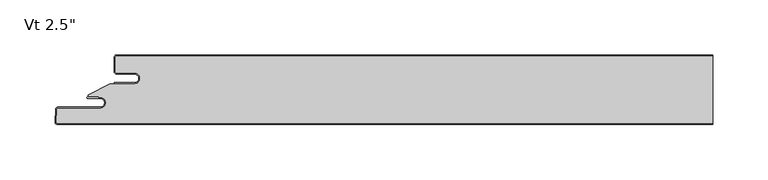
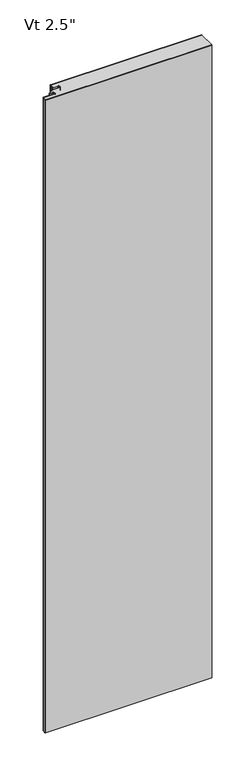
"""IFC4 building model written with IfcOpenShell, lengths in millimetres: plate geometry."""

import ifcopenshell
import ifcopenshell.guid

model = None  # the IFC model being written
_history = None  # IfcOwnerHistory: only IFC2X3 demands one
_inside = {}  # id of a spatial element -> (the spatial element, [elements in it])
_under = {}  # id of a project, library or spatial element -> (it, [spatial elements below it])
_declared = {}  # id of a project -> (the project, [libraries it declares])
_typed = {}  # id of a type object -> (the type object, [elements of that type])
_made_of = {}  # id of a material, layer set ... -> (it, [elements and type objects made of it])


def new_model(schema):
    """Start an empty IFC model of exactly this schema.

    Asked for "IFC4X3", IfcOpenShell would pick the latest addendum, in which some entities
    have other attributes; the version numbers below select the first issue.
    IFC2X3 requires an IfcOwnerHistory on every rooted entity: one is made here for all.
    """
    global model, _history
    if schema == "IFC4X3":
        model = ifcopenshell.file(schema_version=(4, 3, 0, 0))
    else:
        model = ifcopenshell.file(schema=schema)
    _inside.clear()
    _under.clear()
    _declared.clear()
    _typed.clear()
    _made_of.clear()
    _history = None
    if model.schema == "IFC2X3":
        org = make("IfcOrganization", Name="unknown")
        user = make(
            "IfcPersonAndOrganization",
            ThePerson=make("IfcPerson", FamilyName="unknown"),
            TheOrganization=org,
        )
        app = make(
            "IfcApplication",
            ApplicationDeveloper=org,
            Version="unknown",
            ApplicationFullName="unknown",
            ApplicationIdentifier="unknown",
        )
        _history = make(
            "IfcOwnerHistory",
            OwningUser=user,
            OwningApplication=app,
            ChangeAction="ADDED",
            CreationDate=0,
        )
    return model


def make(cls, **values):
    """One entity of the class cls with the attributes given. An attribute that is None is left unset."""
    return model.create_entity(
        cls, **{name: value for name, value in values.items() if value is not None}
    )


def rooted(cls, **values):
    """An entity with a GlobalId (a new one), such as an element, a storey or a relation."""
    return make(cls, GlobalId=ifcopenshell.guid.new(), OwnerHistory=_history, **values)


def si_unit(unit_type, name, prefix=None):
    """IfcSIUnit, for example si_unit("LENGTHUNIT", "METRE", prefix="MILLI")."""
    return make("IfcSIUnit", UnitType=unit_type, Prefix=prefix, Name=name)


def assignment(units):
    """IfcUnitAssignment: the units of a project."""
    return None if units is None else make("IfcUnitAssignment", Units=units)


def point(xyz):
    """IfcCartesianPoint."""
    return None if xyz is None else make("IfcCartesianPoint", Coordinates=xyz)


def direction(xyz):
    """IfcDirection."""
    return None if xyz is None else make("IfcDirection", DirectionRatios=xyz)


def frame(location, z_axis=None, x_axis=None):
    """IfcAxis2Placement3D, a coordinate frame: its origin and axes. An axis left out is left unset."""
    return make(
        "IfcAxis2Placement3D",
        Location=point(location),
        Axis=direction(z_axis),
        RefDirection=direction(x_axis),
    )


def frame_2d(location, x_axis=None):
    """IfcAxis2Placement2D, a coordinate frame in the plane: its origin and x axis."""
    return make(
        "IfcAxis2Placement2D", Location=point(location), RefDirection=direction(x_axis)
    )


def origin():
    """The frame at (0, 0, 0) with its axes left unset."""
    return frame((0.0, 0.0, 0.0))


def origin_with_axes():
    """The frame at (0, 0, 0) with the z axis (0, 0, 1) and the x axis (1, 0, 0) written out."""
    return frame((0.0, 0.0, 0.0), z_axis=(0.0, 0.0, 1.0), x_axis=(1.0, 0.0, 0.0))


def place(relative_to, where):
    """IfcLocalPlacement: puts the frame where relative to a parent placement (None: the world)."""
    return make(
        "IfcLocalPlacement", PlacementRelTo=relative_to, RelativePlacement=where
    )


def context(
    kind, dimensions, precision=None, world=None, true_north=None, identifier=None
):
    """IfcGeometricRepresentationContext, for example the 3D "Model" context."""
    return make(
        "IfcGeometricRepresentationContext",
        ContextIdentifier=identifier,
        ContextType=kind,
        CoordinateSpaceDimension=dimensions,
        Precision=precision,
        WorldCoordinateSystem=world,
        TrueNorth=true_north,
    )


def project(units=None, contexts=None):
    """IfcProject with its units and contexts."""
    return rooted(
        "IfcProject",
        Name="project",
        RepresentationContexts=contexts,
        UnitsInContext=assignment(units),
    )


def spatial(cls, under=None, at=None, **own):
    """A site, building, storey or space (cls), placed at a placement, below another one or the project."""
    s = rooted(cls, ObjectPlacement=at, **own)
    if under is not None:
        _under.setdefault(under.id(), (under, []))[1].append(s)
    return s


def polyline(points):
    """IfcPolyline through the points."""
    return make("IfcPolyline", Points=[point(p) for p in points])


def circle_curve(where, radius):
    """IfcCircle in the frame where."""
    return make("IfcCircle", Position=where, Radius=radius)


def trimmed(basis, trim1, trim2, sense, master):
    """IfcTrimmedCurve: the piece of a basis curve between two trims."""
    return make(
        "IfcTrimmedCurve",
        BasisCurve=basis,
        Trim1=trim1,
        Trim2=trim2,
        SenseAgreement=sense,
        MasterRepresentation=master,
    )


def segment(curve, same_sense, transition):
    """IfcCompositeCurveSegment."""
    return make(
        "IfcCompositeCurveSegment",
        Transition=transition,
        SameSense=same_sense,
        ParentCurve=curve,
    )


def composite_curve(segments, self_intersect=None):
    """IfcCompositeCurve: segments joined end to end."""
    return make("IfcCompositeCurve", Segments=segments, SelfIntersect=self_intersect)


def outline(outer, holes=None, kind="AREA"):
    """IfcArbitraryClosedProfileDef: a profile drawn as a closed curve; with holes, ...WithVoids."""
    if holes is None:
        return make("IfcArbitraryClosedProfileDef", ProfileType=kind, OuterCurve=outer)
    return make(
        "IfcArbitraryProfileDefWithVoids",
        ProfileType=kind,
        OuterCurve=outer,
        InnerCurves=holes,
    )


def extrude(swept, where, along, depth):
    """IfcExtrudedAreaSolid: the profile swept, set in the frame where, extruded along a direction by depth."""
    return make(
        "IfcExtrudedAreaSolid",
        SweptArea=swept,
        Position=where,
        ExtrudedDirection=direction(along),
        Depth=depth,
    )


def shape(context_of_items, identifier, shape_type, items):
    """IfcShapeRepresentation: the items that make up one representation, for example the "Body"."""
    return make(
        "IfcShapeRepresentation",
        ContextOfItems=context_of_items,
        RepresentationIdentifier=identifier,
        RepresentationType=shape_type,
        Items=items,
    )


def source(mapping_origin, context_of_items, identifier, shape_type, items):
    """IfcRepresentationMap: a shape defined once, which mapped items show again and again."""
    return make(
        "IfcRepresentationMap",
        MappingOrigin=mapping_origin,
        MappedRepresentation=shape(context_of_items, identifier, shape_type, items),
    )


def transform(
    local_origin,
    x_axis=None,
    y_axis=None,
    z_axis=None,
    scale=None,
    scale2=None,
    scale3=None,
    uniform=True,
):
    """IfcCartesianTransformationOperator3D, or its non-uniform kind. x_axis, y_axis, z_axis: its Axis1, 2, 3."""
    if uniform:
        return make(
            "IfcCartesianTransformationOperator3D",
            Axis1=direction(x_axis),
            Axis2=direction(y_axis),
            LocalOrigin=point(local_origin),
            Scale=scale,
            Axis3=direction(z_axis),
        )
    return make(
        "IfcCartesianTransformationOperator3DnonUniform",
        Axis1=direction(x_axis),
        Axis2=direction(y_axis),
        LocalOrigin=point(local_origin),
        Scale=scale,
        Axis3=direction(z_axis),
        Scale2=scale2,
        Scale3=scale3,
    )


def mapped(mapping_source, mapping_target):
    """IfcMappedItem: shows the shape of a source again, moved by a transform."""
    return make(
        "IfcMappedItem", MappingSource=mapping_source, MappingTarget=mapping_target
    )


def made_of(thing, what):
    """Note that an element or type object is made of a material, layer set ...; save() writes the relation."""
    if what is not None:
        _made_of.setdefault(what.id(), (what, []))[1].append(thing)
    return thing


def element(
    cls,
    number,
    at=None,
    inside=None,
    cuts=None,
    type_object=None,
    material=None,
    context=None,
    identifier="Body",
    shape_type=None,
    held_by="IfcProductDefinitionShape",
    body=None,
    shapes=None,
    **own,
):
    """One element of the class cls, such as IfcWall. Its Tag is "e" and its number.

    at: its placement. inside: the storey or other place that contains it. cuts: it is an
    opening in that element (IfcRelVoidsElement). A single representation is given by context,
    identifier, shape_type and body (its items); several are given by shapes. held_by: the class
    of the entity that holds the representations. save() writes the other relations.
    """
    e = rooted(cls, Tag="e%d" % number, ObjectPlacement=at, **own)
    if body is not None:
        shapes = [shape(context, identifier, shape_type, body)]
    if shapes is not None:
        e.Representation = make(held_by, Representations=shapes)
    if inside is not None:
        _inside.setdefault(inside.id(), (inside, []))[1].append(e)
    if cuts is not None:
        rooted(
            "IfcRelVoidsElement", RelatingBuildingElement=cuts, RelatedOpeningElement=e
        )
    if type_object is not None:
        _typed.setdefault(type_object.id(), (type_object, []))[1].append(e)
    return made_of(e, material)


def aggregate(whole, parts):
    """IfcRelAggregates: a whole, such as a stair, and the parts it consists of."""
    return rooted("IfcRelAggregates", RelatingObject=whole, RelatedObjects=parts)


def save(model, path):
    """Write the relations noted so far, then the file.

    IfcRelAggregates (storeys below a building ...), IfcRelContainedInSpatialStructure (elements
    in a storey), IfcRelDefinesByType, IfcRelAssociatesMaterial and IfcRelDeclares: one each for
    every whole, place, type object, material and project.
    """
    for whole, parts in _under.values():
        aggregate(whole, parts)
    for where, things in _inside.values():
        rooted(
            "IfcRelContainedInSpatialStructure",
            RelatedElements=things,
            RelatingStructure=where,
        )
    for kind, things in _typed.values():
        rooted("IfcRelDefinesByType", RelatedObjects=things, RelatingType=kind)
    for what, things in _made_of.values():
        rooted("IfcRelAssociatesMaterial", RelatedObjects=things, RelatingMaterial=what)
    for by, libraries in _declared.values():
        rooted("IfcRelDeclares", RelatingContext=by, RelatedDefinitions=libraries)
    model.write(path)


def plate_90314a49(model_context):
    return source(origin(), model_context, "Body", "SweptSolid", [
        extrude(outline(composite_curve([segment(polyline([(-253.4499998, -16.4625), (-269.3249998, -16.4625)]), True, "CONTINUOUS"), segment(trimmed(circle_curve(frame_2d((-269.3249998, -15.08125)), 1.38125), [point((-269.3249998, -16.4625))], [point((-270.7062498, -15.08125))], False, "CARTESIAN"), True, "CONTINUOUS"), segment(polyline([(-270.7062498, -15.08125), (-270.7062498, -2.38125)]), True, "CONTINUOUS"), segment(trimmed(circle_curve(frame_2d((-269.3249998, -2.38125)), 1.38125), [point((-270.7062498, -2.38125))], [point((-269.3249998, -1.0))], False, "CARTESIAN"), True, "CONTINUOUS"), segment(polyline([(-269.3249998, -1.0), (272.4999998, -1.0), (272.4999998, -62.5), (-323.1862034, -62.5)]), True, "CONTINUOUS"), segment(trimmed(circle_curve(frame_2d((-323.1862034, -61.11875)), 1.38125), [point((-323.1862034, -62.5))], [point((-324.5655604, -61.046461))], False, "CARTESIAN"), True, "CONTINUOUS"), segment(polyline([(-324.5655604, -61.046461), (-323.983179, -49.933961)]), True, "CONTINUOUS"), segment(trimmed(circle_curve(frame_2d((-322.6038219, -50.00625)), 1.38125), [point((-323.983179, -49.933961))], [point((-322.6038219, -48.625))], False, "CARTESIAN"), True, "CONTINUOUS"), segment(polyline([(-322.6038219, -48.625), (-284.4205173, -48.625)]), True, "CONTINUOUS"), segment(trimmed(circle_curve(frame_2d((-284.4205173, -43.65625)), 4.96875), [point((-284.4205173, -48.625))], [point((-284.4205173, -38.6875))], True, "CARTESIAN"), True, "CONTINUOUS"), segment(polyline([(-284.4205173, -38.6875), (-286.0080173, -38.89375), (-286.0080173, -38.1), (-295.5187498, -38.1), (-295.5187498, -36.5326309), (-275.6323421, -26.4), (-253.4499998, -26.4)]), True, "CONTINUOUS"), segment(trimmed(circle_curve(frame_2d((-253.4499998, -21.43125)), 4.96875), [point((-253.4499998, -26.4))], [point((-253.4499998, -16.4625))], True, "CARTESIAN"), True, "CONTINUOUS")], self_intersect=False)), origin_with_axes(), (0.0, 0.0, 1.0), 2400.0),
        extrude(outline(composite_curve([segment(polyline([(-271.7062498, -25.4), (-253.4499998, -25.4)]), True, "CONTINUOUS"), segment(trimmed(circle_curve(frame_2d((-253.4499998, -21.43125)), 3.96875), [point((-253.4499998, -25.4))], [point((-253.4499998, -17.4625))], True, "CARTESIAN"), True, "CONTINUOUS"), segment(polyline([(-253.4499998, -17.4625), (-269.3249998, -17.4625)]), True, "CONTINUOUS"), segment(trimmed(circle_curve(frame_2d((-269.3249998, -15.08125)), 2.38125), [point((-269.3249998, -17.4625))], [point((-271.7062498, -15.08125))], False, "CARTESIAN"), True, "CONTINUOUS"), segment(polyline([(-271.7062498, -15.08125), (-271.7062498, -2.38125)]), True, "CONTINUOUS"), segment(trimmed(circle_curve(frame_2d((-269.3249998, -2.38125)), 2.38125), [point((-271.7062498, -2.38125))], [point((-269.3249998, 0.0))], False, "CARTESIAN"), True, "CONTINUOUS"), segment(polyline([(-269.3249998, 0.0), (272.4999998, 0.0), (272.4999998, -1.0), (-269.3249998, -1.0)]), True, "CONTINUOUS"), segment(trimmed(circle_curve(frame_2d((-269.3249998, -2.38125)), 1.38125), [point((-269.3249998, -1.0))], [point((-270.7062498, -2.38125))], True, "CARTESIAN"), True, "CONTINUOUS"), segment(polyline([(-270.7062498, -2.38125), (-270.7062498, -15.08125)]), True, "CONTINUOUS"), segment(trimmed(circle_curve(frame_2d((-269.3249998, -15.08125)), 1.38125), [point((-270.7062498, -15.08125))], [point((-269.3249998, -16.4625))], True, "CARTESIAN"), True, "CONTINUOUS"), segment(polyline([(-269.3249998, -16.4625), (-253.4499998, -16.4625)]), True, "CONTINUOUS"), segment(trimmed(circle_curve(frame_2d((-253.4499998, -21.43125)), 4.96875), [point((-253.4499998, -16.4625))], [point((-253.4499998, -26.4))], False, "CARTESIAN"), True, "CONTINUOUS"), segment(polyline([(-253.4499998, -26.4), (-271.7062498, -26.4), (-271.7062498, -25.4)]), True, "CONTINUOUS")], self_intersect=False)), origin_with_axes(), (0.0, 0.0, 1.0), 2400.0),
        extrude(outline(composite_curve([segment(polyline([(-295.7314548, -38.1), (-286.0080173, -38.1), (-286.0080173, -38.89375), (-284.4205173, -38.6875)]), True, "CONTINUOUS"), segment(trimmed(circle_curve(frame_2d((-284.4205173, -43.65625)), 4.96875), [point((-284.4205173, -38.6875))], [point((-284.4205173, -48.625))], False, "CARTESIAN"), True, "CONTINUOUS"), segment(polyline([(-284.4205173, -48.625), (-322.6038219, -48.625)]), True, "CONTINUOUS"), segment(trimmed(circle_curve(frame_2d((-322.6038219, -50.00625)), 1.38125), [point((-322.6038219, -48.625))], [point((-323.983179, -49.933961))], True, "CARTESIAN"), True, "CONTINUOUS"), segment(polyline([(-323.983179, -49.933961), (-324.5655604, -61.046461)]), True, "CONTINUOUS"), segment(trimmed(circle_curve(frame_2d((-323.1862034, -61.11875)), 1.38125), [point((-324.5655604, -61.046461))], [point((-323.1862034, -62.5))], True, "CARTESIAN"), True, "CONTINUOUS"), segment(polyline([(-323.1862034, -62.5), (272.4999998, -62.5), (272.4999998, -63.5), (-323.1862034, -63.5)]), True, "CONTINUOUS"), segment(trimmed(circle_curve(frame_2d((-323.1862034, -61.11875)), 2.38125), [point((-323.1862034, -63.5))], [point((-325.5641899, -60.994125))], False, "CARTESIAN"), True, "CONTINUOUS"), segment(polyline([(-325.5641899, -60.994125), (-324.9818085, -49.881625)]), True, "CONTINUOUS"), segment(trimmed(circle_curve(frame_2d((-322.6038219, -50.00625)), 2.38125), [point((-324.9818085, -49.881625))], [point((-322.6038219, -47.625))], False, "CARTESIAN"), True, "CONTINUOUS"), segment(polyline([(-322.6038219, -47.625), (-284.4205173, -47.625)]), True, "CONTINUOUS"), segment(trimmed(circle_curve(frame_2d((-284.4205173, -43.65625)), 3.96875), [point((-284.4205173, -47.625))], [point((-284.4205173, -39.6875))], True, "CARTESIAN"), True, "CONTINUOUS"), segment(polyline([(-284.4205173, -39.6875), (-295.7314548, -39.6875)]), True, "CONTINUOUS"), segment(trimmed(circle_curve(frame_2d((-295.7314548, -38.89375)), 0.79375), [point((-295.7314548, -39.6875))], [point((-295.7314548, -38.1))], False, "CARTESIAN"), True, "CONTINUOUS")], self_intersect=False)), origin_with_axes(), (0.0, 0.0, 1.0), 2400.0),
    ])


if __name__ == "__main__":
    model = new_model("IFC4")
    model_context = context("Model", 3, world=origin())
    ifc_project = project(units=[si_unit("LENGTHUNIT", "METRE", prefix="MILLI")], contexts=[model_context])
    site = spatial("IfcSite", under=ifc_project)
    building = spatial("IfcBuilding", under=site)
    placement = place(None, origin())
    plate_shape = plate_90314a49(model_context)
    element("IfcPlate", 1, ObjectType="KIP-36-DWTR-R19-CP-Vt-F : Vt 2.5\"", at=placement, inside=building, context=model_context, shape_type="MappedRepresentation", body=[
        mapped(plate_shape, transform((0.0, 0.0, 0.0), x_axis=(1.0, 0.0, 0.0), y_axis=(0.0, 1.0, 0.0), z_axis=(0.0, 0.0, 1.0))),
    ])
    save(model, "model.ifc")
